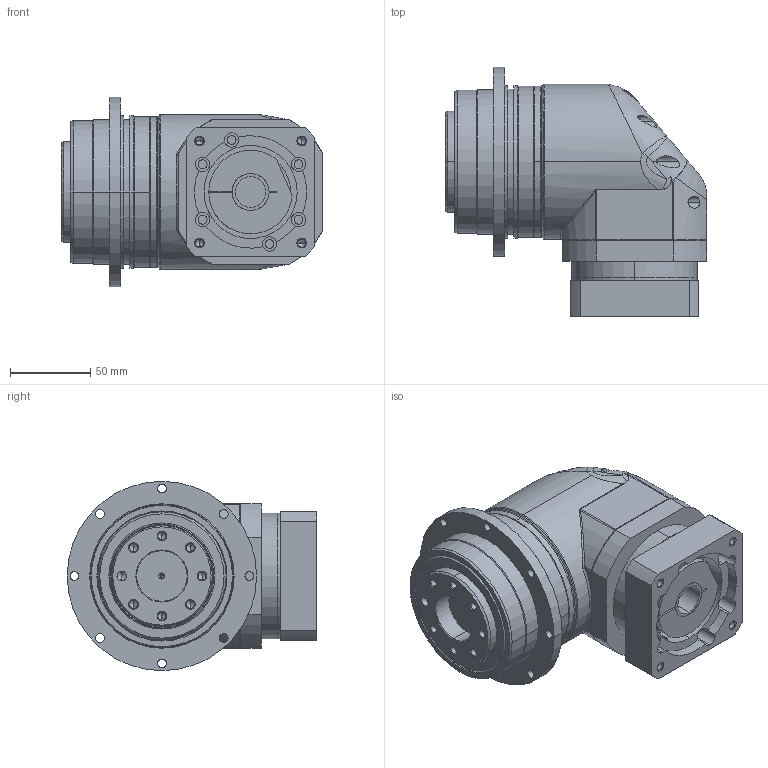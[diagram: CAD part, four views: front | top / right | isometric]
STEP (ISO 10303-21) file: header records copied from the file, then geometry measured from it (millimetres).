
FILE_DESCRIPTION (( 'STEP AP203' ), '1' );
FILE_NAME ('ADR090-L1-19-70-90-M6.STEP', '2024-05-04T07:47:41', ( '' ), ( '' ), 'SwSTEP 2.0', 'SolidWorks 2015', '' );
FILE_SCHEMA (( 'CONFIG_CONTROL_DESIGN' ));
Length unit declared in the file: millimetre
Products named in the file (1): ADR090-L1-19-70-90-M6
Bounding box: 163 x 155.5 x 118 mm (x, y, z)
Volume: 972045.8 mm3; surface area: 197906.6 mm2
Topology: 8 solids, 8 shells, 543 faces, 1288 edges, 762 vertices
Faces by surface type: cylinder 230, cone 126, plane 92, bspline 87, torus 8
Entity records: 20568 total; most frequent: CARTESIAN_POINT 8449, DIRECTION 2538, ORIENTED_EDGE 2472, EDGE_CURVE 1236, AXIS2_PLACEMENT_3D 1051, VERTEX_POINT 762, EDGE_LOOP 652, CIRCLE 594
